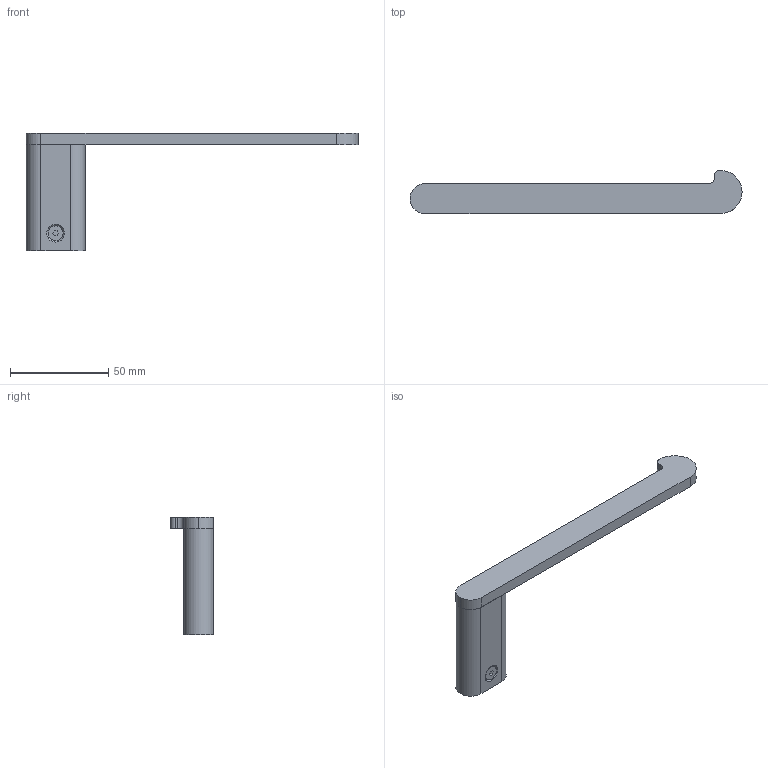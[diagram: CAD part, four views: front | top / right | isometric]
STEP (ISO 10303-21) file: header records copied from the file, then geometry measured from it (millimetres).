
FILE_DESCRIPTION (( 'STEP AP203' ), '1' );
FILE_NAME ('33043A-00-00.STEP', '2025-09-19T02:11:25', ( '' ), ( '' ), 'SwSTEP 2.0', 'SolidWorks 2015', '' );
FILE_SCHEMA (( 'CONFIG_CONTROL_DESIGN' ));
Length unit declared in the file: millimetre
Products named in the file (1): 33043A-00-00
Bounding box: 169 x 22 x 60 mm (x, y, z)
Surface area: 15795.4 mm2 (no closed solid volume)
Topology: 0 solids, 4 shells, 43 faces, 129 edges, 91 vertices
Faces by surface type: plane 23, cylinder 15, cone 5
Entity records: 1536 total; most frequent: CARTESIAN_POINT 270, DIRECTION 263, ORIENTED_EDGE 213, EDGE_CURVE 129, AXIS2_PLACEMENT_3D 92, VERTEX_POINT 91, LINE 79, VECTOR 79
